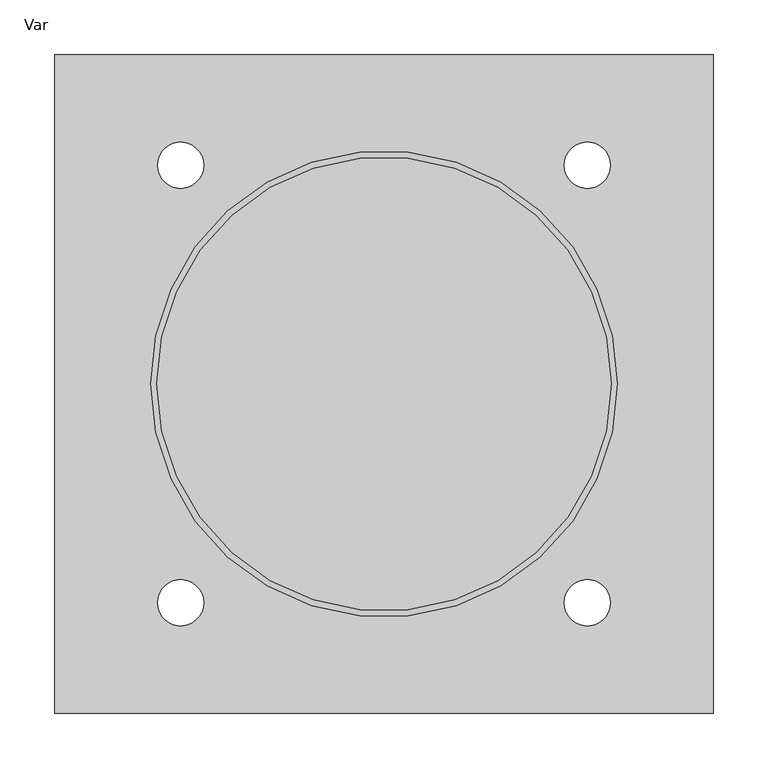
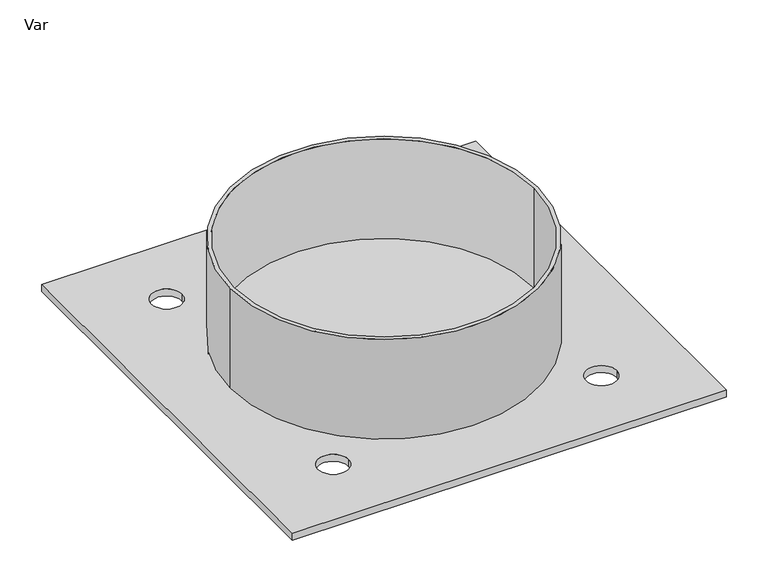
"""IFC4 building model written with IfcOpenShell, lengths in millimetres: pipe fitting geometry, PlastigamaWavin_Unionesdetubería_Aquacell400_AdaptadorDN425 : Var."""

from ifc_helpers import new_model, si_unit, point, frame_2d, origin, origin_with_axes, origin_2d, place, context, project, spatial, polyline, circle_curve, trimmed, segment, composite_curve, outline, extrude, source, transform, mapped, element, save


def var_8eb57f07(model_context):
    return source(origin(), model_context, "Body", "SweptSolid", [
        extrude(outline(composite_curve([segment(trimmed(circle_curve(origin_2d(), 212.5), [point((-212.5, 0.0))], [point((212.5, 0.0))], False, "CARTESIAN"), True, "CONTINUOUS"), segment(trimmed(circle_curve(origin_2d(), 212.5), [point((212.5, 0.0))], [point((-212.5, 0.0))], False, "CARTESIAN"), True, "CONTINUOUS")], self_intersect=False), holes=[composite_curve([segment(trimmed(circle_curve(origin_2d(), 207.0), [point((-207.0, 0.0))], [point((207.0, 0.0))], True, "CARTESIAN"), True, "CONTINUOUS"), segment(trimmed(circle_curve(origin_2d(), 207.0), [point((207.0, 0.0))], [point((-207.0, 0.0))], True, "CARTESIAN"), True, "CONTINUOUS")], self_intersect=False)]), origin_with_axes(), (0.0, 0.0, 1.0), 155.5),
        extrude(outline(polyline([(-300.0, -300.0), (-300.0, 300.0), (300.0, 300.0), (300.0, -300.0), (-300.0, -300.0)]), holes=[composite_curve([segment(trimmed(circle_curve(frame_2d((-185.4121869, 199.3986999)), 21.0), [point((-206.4121869, 199.3986999))], [point((-164.4121869, 199.3986999))], True, "CARTESIAN"), True, "CONTINUOUS"), segment(trimmed(circle_curve(frame_2d((-185.4121869, 199.3986999)), 21.0), [point((-164.4121869, 199.3986999))], [point((-206.4121869, 199.3986999))], True, "CARTESIAN"), True, "CONTINUOUS")], self_intersect=False), composite_curve([segment(trimmed(circle_curve(frame_2d((185.4121869, 199.3986999)), 21.0), [point((164.4121869, 199.3986999))], [point((206.4121869, 199.3986999))], True, "CARTESIAN"), True, "CONTINUOUS"), segment(trimmed(circle_curve(frame_2d((185.4121869, 199.3986999)), 21.0), [point((206.4121869, 199.3986999))], [point((164.4121869, 199.3986999))], True, "CARTESIAN"), True, "CONTINUOUS")], self_intersect=False), composite_curve([segment(trimmed(circle_curve(frame_2d((185.4121869, -199.3986999)), 21.0), [point((164.4121869, -199.3986999))], [point((206.4121869, -199.3986999))], True, "CARTESIAN"), True, "CONTINUOUS"), segment(trimmed(circle_curve(frame_2d((185.4121869, -199.3986999)), 21.0), [point((206.4121869, -199.3986999))], [point((164.4121869, -199.3986999))], True, "CARTESIAN"), True, "CONTINUOUS")], self_intersect=False), composite_curve([segment(trimmed(circle_curve(frame_2d((-185.4121869, -199.3986999)), 21.0), [point((-206.4121869, -199.3986999))], [point((-164.4121869, -199.3986999))], True, "CARTESIAN"), True, "CONTINUOUS"), segment(trimmed(circle_curve(frame_2d((-185.4121869, -199.3986999)), 21.0), [point((-164.4121869, -199.3986999))], [point((-206.4121869, -199.3986999))], True, "CARTESIAN"), True, "CONTINUOUS")], self_intersect=False)]), origin_with_axes(), (0.0, 0.0, 1.0), 10.0),
    ])


if __name__ == "__main__":
    model = new_model("IFC4")
    model_context = context("Model", 3, world=origin())
    ifc_project = project(units=[si_unit("LENGTHUNIT", "METRE", prefix="MILLI")], contexts=[model_context])
    site = spatial("IfcSite", under=ifc_project)
    building = spatial("IfcBuilding", under=site)
    placement = place(None, origin())
    var_shape = var_8eb57f07(model_context)
    element("IfcPipeFitting", 1, ObjectType="PlastigamaWavin_Unionesdetubería_Aquacell400_AdaptadorDN425 : Var", at=placement, inside=building, context=model_context, shape_type="MappedRepresentation", body=[
        mapped(var_shape, transform((0.0, 0.0, 0.0), x_axis=(1.0, 0.0, 0.0), y_axis=(0.0, 1.0, 0.0), z_axis=(0.0, 0.0, 1.0))),
    ])
    save(model, "model.ifc")
